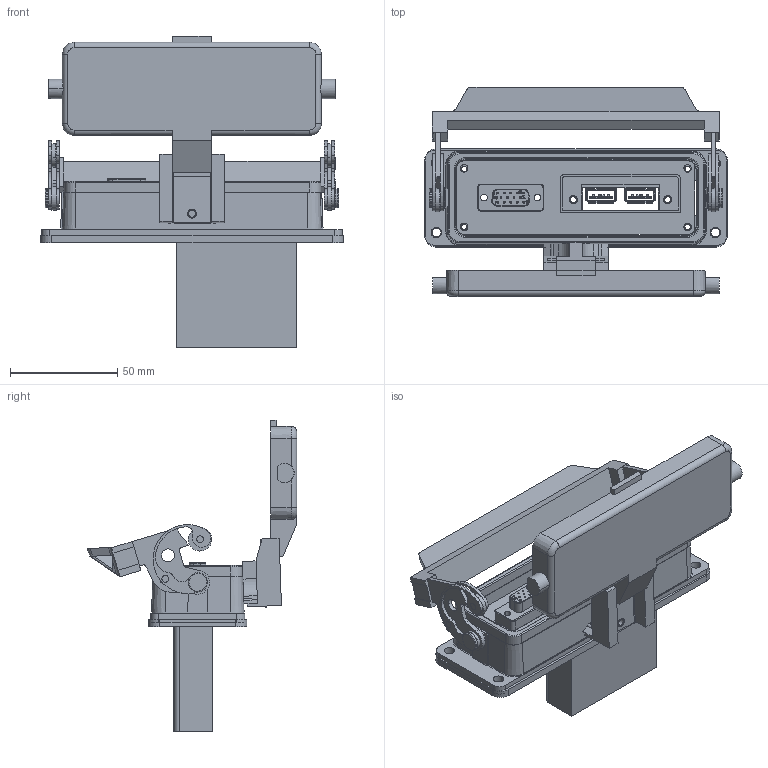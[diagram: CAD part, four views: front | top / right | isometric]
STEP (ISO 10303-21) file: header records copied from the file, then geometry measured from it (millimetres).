
FILE_DESCRIPTION (( 'STEP AP214' ), '1' );
FILE_NAME ('DDB15-USB-24.STEP', '2006-07-13T12:51:09', ( 'Mencom User' ), ( 'Mencom Corporation' ), 'SwSTEP 2.0', 'SolidWorks 2006104', '' );
FILE_SCHEMA (( 'AUTOMOTIVE_DESIGN' ));
Length unit declared in the file: inch
Products named in the file (1): DDB15-USB-24
Bounding box: 140.97 x 97.6 x 145.06 mm (x, y, z)
Surface area: 96316.4 mm2 (no closed solid volume)
Topology: 0 solids, 55 shells, 888 faces, 3154 edges, 2285 vertices
Faces by surface type: plane 429, cylinder 369, torus 72, cone 14, bspline 4
Entity records: 47335 total; most frequent: CARTESIAN_POINT 8539, DIRECTION 5792, ORIENTED_EDGE 5020, EDGE_CURVE 3154, VERTEX_POINT 2285, AXIS2_PLACEMENT_3D 1941, LINE 1910, VECTOR 1910
